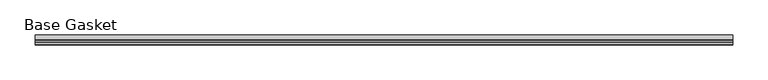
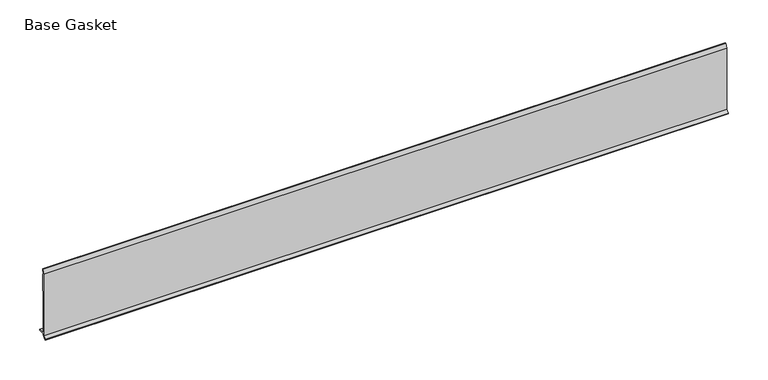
"""IFC4 building model written with IfcOpenShell, lengths in millimetres: furniture geometry, Gasket-Teknion-FHGB-AI_Healthcare-R2021 : Base Gasket."""

from ifc_helpers import new_model, si_unit, frame, origin, place, context, project, spatial, polyline, outline, extrude, source, transform, mapped, element, save


def base_gasket_40711c9c(model_context):
    return source(origin(), model_context, "Body", "SweptSolid", [
        extrude(outline(polyline([(-3.7283812, 98.4568417), (-1.1891543, 104.587663), (-0.6755308, 105.2002997), (-0.6755308, 104.4162708), (-2.2043812, 98.4568417), (-2.2043812, 96.8693477), (-1.4106313, 96.8693477), (-1.4106313, 71.4693447), (-2.2043812, 71.4693447), (-2.2043812, 7.9398773), (6.2405171, 7.9398773), (6.2405171, 6.3818476), (-2.1334222, 6.3818476), (-2.2043812, 4.3498477), (-6.8281054, 0.3520979), (-7.8482342, 0.0), (-7.4222115, 0.6560174), (-3.7283812, 4.3498477), (-3.7283812, 98.4568417)])), frame((-1527.8982117, 0.0, 0.0), z_axis=(1.0, 0.0, 0.0), x_axis=(0.0, 1.0, 0.0)), (0.0, 0.0, 1.0), 990.6),
    ])


if __name__ == "__main__":
    model = new_model("IFC4")
    model_context = context("Model", 3, world=origin())
    ifc_project = project(units=[si_unit("LENGTHUNIT", "METRE", prefix="MILLI")], contexts=[model_context])
    site = spatial("IfcSite", under=ifc_project)
    building = spatial("IfcBuilding", under=site)
    placement = place(None, origin())
    base_gasket_shape = base_gasket_40711c9c(model_context)
    element("IfcFurniture", 1, ObjectType="Gasket-Teknion-FHGB-AI_Healthcare-R2021 : Base Gasket", at=placement, inside=building, context=model_context, shape_type="MappedRepresentation", body=[
        mapped(base_gasket_shape, transform((0.0, 0.0, 0.0), x_axis=(1.0, 0.0, 0.0), y_axis=(0.0, 1.0, 0.0), z_axis=(0.0, 0.0, 1.0))),
    ])
    save(model, "model.ifc")
